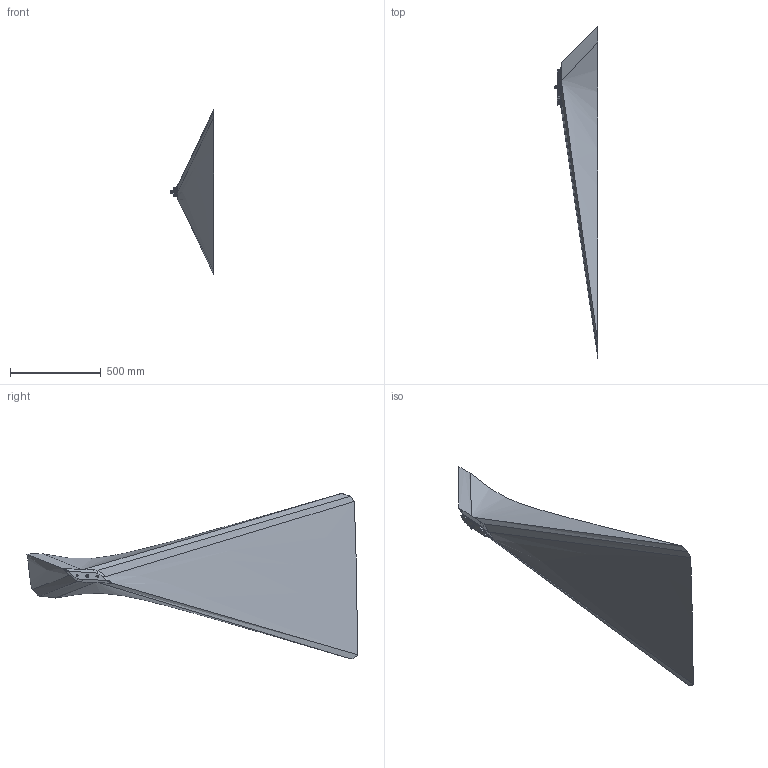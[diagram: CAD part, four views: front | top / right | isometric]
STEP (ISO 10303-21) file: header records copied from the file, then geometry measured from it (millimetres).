
FILE_DESCRIPTION(('CATIA V5 STEP Exchange','CAx-IF Rec.Pracs.--- Model Styling and Organization---1.5--- 2016-08-15','CAx-IF Rec.Pracs.---Supplemental Geometry---1.0---2011-11-01','CAx-IF Rec.Pracs.--- Composite Materials ---1.1---2010-07-15'),'2;1');
FILE_NAME('E:\tmp\ddx\2011204\3D_data_LED_position_lamp_SHAPELINE_style_slim_2PF 013 326.stp','2022-01-18T07:37:38+00:00',('none'),('none'),'CATIA Version 5-6 Release 2020 SP3 HF9','CATIA V5 STEP AP214 Edition 3 v2','none');
FILE_SCHEMA(('AUTOMOTIVE_DESIGN { 1 0 10303 214 3 1 1 1 }'));
Products named in the file (1): 10002757937_D10_001
Bounding box: 240.4 x 1830.79 x 914.43 mm (x, y, z)
Volume: 130701.1 mm3; surface area: 1220981.2 mm2
Topology: 1 solids, 2 shells, 777 faces, 1838 edges, 1062 vertices
Faces by surface type: bspline 396, cylinder 202, plane 99, torus 40, cone 34, sphere 6
Entity records: 43051 total; most frequent: CARTESIAN_POINT 29136, ORIENTED_EDGE 3626, EDGE_CURVE 1824, DIRECTION 1395, B_SPLINE_CURVE_WITH_KNOTS 1151, VERTEX_POINT 1062, EDGE_LOOP 790, ADVANCED_FACE 777
